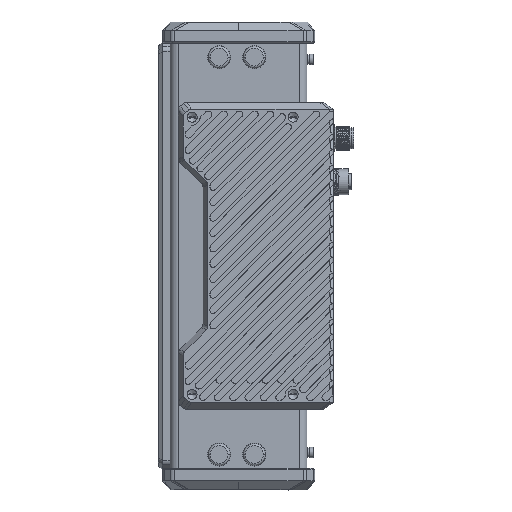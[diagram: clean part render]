
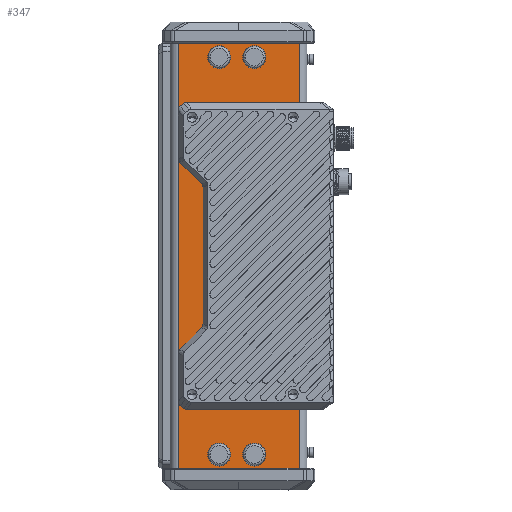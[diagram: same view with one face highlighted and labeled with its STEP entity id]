
A CAD part, top view. The second image highlights one B-rep face of the part: STEP entity #347.
In plain terms, the highlighted planar face has unit normal (0, 0, 1).
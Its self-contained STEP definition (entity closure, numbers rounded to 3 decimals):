
#159=DIRECTION('',(0.,-1.,0.));
#160=VECTOR('',#159,223.);
#161=CARTESIAN_POINT('',(-30.5,111.5,34.5));
#162=LINE('',#161,#160);
#166=DIRECTION('',(1.,0.,0.));
#167=VECTOR('',#166,61.);
#168=CARTESIAN_POINT('',(-30.5,111.5,34.5));
#169=LINE('',#168,#167);
#173=DIRECTION('',(-1.,0.,0.));
#174=VECTOR('',#173,61.);
#175=CARTESIAN_POINT('',(30.5,-111.5,34.5));
#176=LINE('',#175,#174);
#188=DIRECTION('',(0.,1.,0.));
#189=VECTOR('',#188,223.);
#190=CARTESIAN_POINT('',(30.5,-111.5,34.5));
#191=LINE('',#190,#189);
#220=CARTESIAN_POINT('',(-30.5,-111.5,34.5));
#221=VERTEX_POINT('',#220);
#222=CARTESIAN_POINT('',(30.5,-111.5,34.5));
#223=VERTEX_POINT('',#222);
#232=CARTESIAN_POINT('',(30.5,111.5,34.5));
#233=VERTEX_POINT('',#232);
#234=CARTESIAN_POINT('',(-30.5,111.5,34.5));
#235=VERTEX_POINT('',#234);
#333=CARTESIAN_POINT('',(-34.5,-111.5,34.5));
#334=DIRECTION('',(0.,0.,1.));
#335=DIRECTION('',(1.,0.,0.));
#336=AXIS2_PLACEMENT_3D('',#333,#334,#335);
#337=PLANE('',#336);
#338=ORIENTED_EDGE('',*,*,#328,.F.);
#340=ORIENTED_EDGE('',*,*,#339,.T.);
#342=ORIENTED_EDGE('',*,*,#341,.F.);
#344=ORIENTED_EDGE('',*,*,#343,.T.);
#345=EDGE_LOOP('',(#338,#340,#342,#344));
#346=FACE_OUTER_BOUND('',#345,.F.);
#328=EDGE_CURVE('',#235,#221,#162,.T.);
#339=EDGE_CURVE('',#235,#233,#169,.T.);
#341=EDGE_CURVE('',#223,#233,#191,.T.);
#343=EDGE_CURVE('',#223,#221,#176,.T.);
#347=ADVANCED_FACE('',(#346),#337,.T.);
